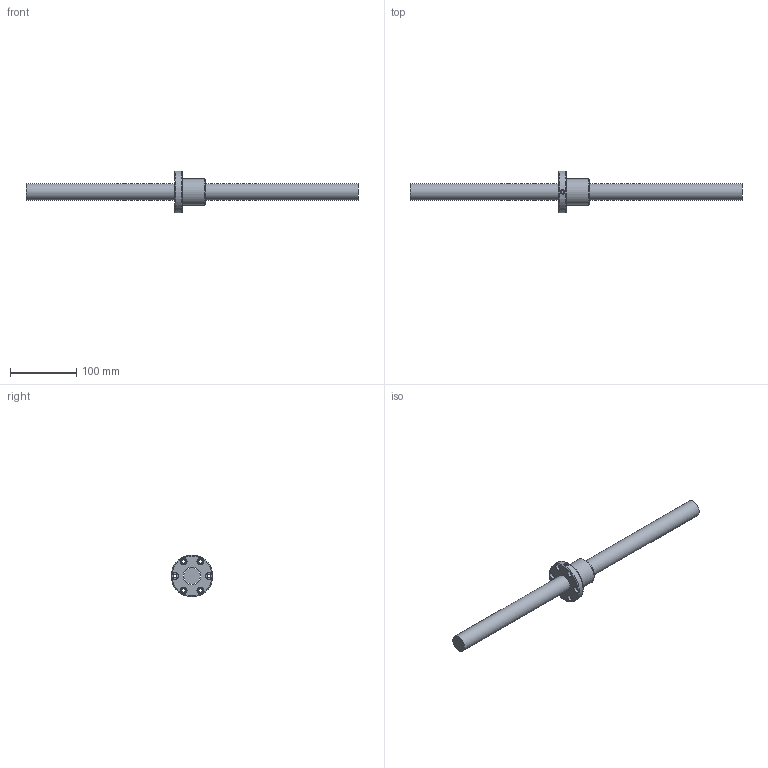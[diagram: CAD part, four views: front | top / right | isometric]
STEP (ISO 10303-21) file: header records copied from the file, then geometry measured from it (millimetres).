
FILE_DESCRIPTION (( 'STEP AP203' ), '1' );
FILE_NAME ('SFI02504N-4.STEP', '2024-05-21T03:30:56', ( '' ), ( '' ), 'SwSTEP 2.0', 'SolidWorks 2022', '' );
FILE_SCHEMA (( 'CONFIG_CONTROL_DESIGN' ));
Length unit declared in the file: millimetre
Products named in the file (1): SFI02504N-4
Bounding box: 500 x 63 x 63 mm (x, y, z)
Volume: 294424 mm3; surface area: 56939 mm2
Topology: 2 solids, 2 shells, 57 faces, 141 edges, 88 vertices
Faces by surface type: cylinder 24, cone 13, plane 12, bspline 5, torus 3
Full cylindrical faces by diameter (mm): 4 x1, 5 x6, 5.5 x6, 9.5 x6, 25 x1, 26.6 x1, 40 x1, 63 x1
Entity records: 3106 total; most frequent: CARTESIAN_POINT 2055, DIRECTION 206, ORIENTED_EDGE 148, EDGE_LOOP 102, AXIS2_PLACEMENT_3D 101, EDGE_CURVE 74, FACE_OUTER_BOUND 72, VERTEX_POINT 64
